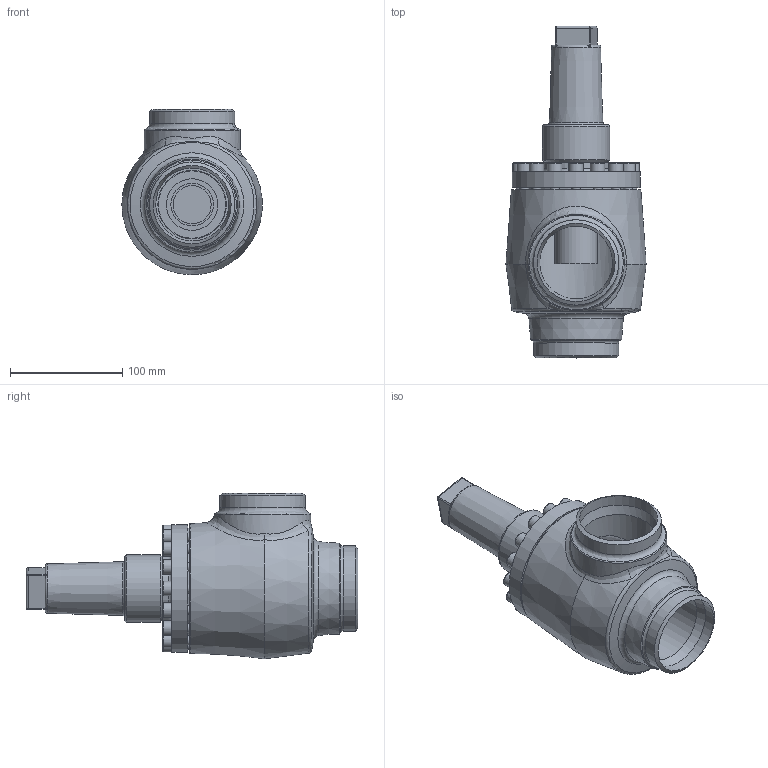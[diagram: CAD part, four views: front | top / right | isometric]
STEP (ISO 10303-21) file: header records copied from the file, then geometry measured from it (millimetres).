
FILE_DESCRIPTION(/* description */ (''),/* implementation_level */ '2;1');
FILE_NAME(/* name */ 'A:\Zeichnungsverwaltung\3D-Zeichnungen\Z-ZG\AVB\16400\17\AVB E AE 16400-065 PS40.stp',/* time_stamp */ '2020-10-28T11:31:46+01:00',/* author */ ('Nazzal.Yo'),/* organization */ (''),/* preprocessor_version */ 'ST-DEVELOPER v16.1',/* originating_system */ 'Autodesk Inventor 2016',/* authorisation */ '');
FILE_SCHEMA (('AUTOMOTIVE_DESIGN { 1 0 10303 214 3 1 1 }'));
Length unit declared in the file: millimetre
Products named in the file (6): 16400K17.5034004; Kappe16402_DN040-65_Standard; Zylinderschraube-DIN912_M 8x 25; Deckel16300K17-DN65_Standard; AVB16300K17_Deck+Schr-DN65_Standard; AVB E AE 16400-065 PS40
Assembly tree (20 placements, depth 3):
  AVB E AE 16400-065 PS40
    16400K17.5034004
    Kappe16402_DN040-65_Standard
    AVB16300K17_Deck+Schr-DN65_Standard
      Zylinderschraube-DIN912_M 8x 25  x16
      Deckel16300K17-DN65_Standard
Bounding box: 125.03 x 296 x 147.57 mm (x, y, z)
Volume: 1096434.3 mm3; surface area: 219699.1 mm2
Topology: 19 solids, 19 shells, 378 faces, 822 edges, 529 vertices
Faces by surface type: plane 191, cylinder 103, cone 48, torus 31, bspline 5
Full cylindrical faces by diameter (mm): 6.647 x16, 8 x16, 9 x16, 13 x16, 20.5 x1, 27 x1, 31 x1, 34 x1, 38 x1, 44 x1, 46 x1, 48 x1, 49 x1, 52 x1, 59.5 x1, 60 x2, 60.1 x1, 61.1 x1, 65 x2, 69 x1, 69.7 x2, 75.05 x1, 76 x2, 76.1 x2, 86 x2, 114 x1
Entity records: 4938 total; most frequent: CARTESIAN_POINT 1351, DIRECTION 748, ORIENTED_EDGE 498, AXIS2_PLACEMENT_3D 355, EDGE_LOOP 326, EDGE_CURVE 249, VERTEX_POINT 211, FACE_OUTER_BOUND 168
